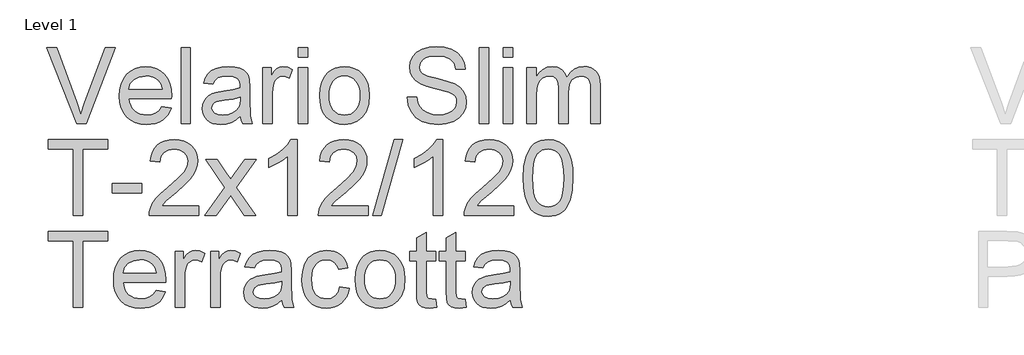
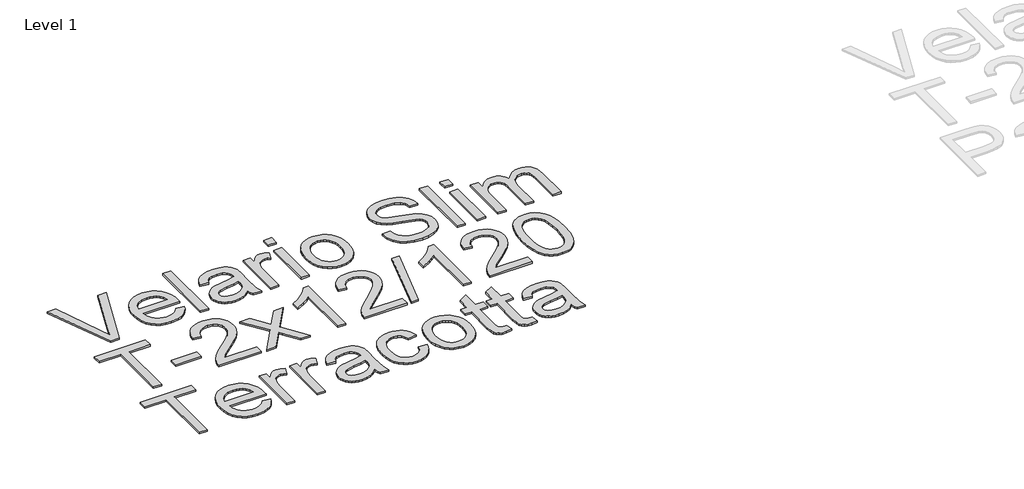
# One storey, part 3 of 13: 1 proxy.
"""IFC4 building model written with IfcOpenShell, lengths in millimetres."""

from ifc_helpers import new_model, si_unit, frame, origin, place, context, project, spatial, polyline, outline, extrude, element, save

model = new_model("IFC4")

# Units and contexts
model_context = context("Model", 3, world=origin())
ifc_project = project(units=[si_unit("LENGTHUNIT", "METRE", prefix="MILLI")], contexts=[model_context])

# Site, building, storey
site = spatial("IfcSite", under=ifc_project)
building = spatial("IfcBuilding", under=site)
storey = spatial("IfcBuildingStorey", under=building, Name="Level 1", Elevation=4000.0)

# Proxy
placement = place(None, origin())
element("IfcBuildingElementProxy", 1, Name="Elysium 400mm Arial", ObjectType="Elysium 400mm Arial", at=placement, inside=storey, context=model_context, shape_type="SweptSolid", body=[
    extrude(outline(polyline([(38701.8504181, -17959.2083157), (38541.9443775, -17557.3830752), (38595.7041998, -17557.3830752), (38702.7333349, -17846.8816799), (38724.4138471, -17912.1194204), (38745.8000538, -17846.8816799), (38853.1234945, -17557.3830752), (38906.8833168, -17557.3830752), (38753.7463049, -17959.2083157), (38701.8504181, -17959.2083157)])), frame((0.0, 0.0, 4000.0), z_axis=(0.0, 0.0, 1.0), x_axis=(1.0, 0.0, 0.0)), (0.0, 0.0, 1.0), 10.0),
    extrude(outline(polyline([(39153.9038138, -17871.3090444), (39203.1509502, -17877.5875638), (39195.6001723, -17897.3121701), (39185.4067753, -17914.6945943), (39172.5707594, -17929.7348366), (39157.0921244, -17942.4328968), (39139.130286, -17952.5189948), (39118.8446596, -17959.7233505), (39071.3020431, -17965.4868351), (39040.1363068, -17963.000566), (39012.3673475, -17955.5417585), (38987.9951653, -17943.1104128), (38967.0197602, -17925.7065287), (38950.1523708, -17903.8144843), (38938.1042354, -17877.9186575), (38930.8753542, -17848.0190484), (38928.4657271, -17814.1156569), (38930.8998797, -17779.0626341), (38938.2023373, -17748.1666779), (38950.3731, -17721.4277882), (38967.4121677, -17698.845965), (38988.3323905, -17680.9055864), (39012.1466183, -17668.0910302), (39038.8548512, -17660.4022965), (39068.457089, -17657.8393853), (39097.1058994, -17660.3961652), (39123.0139889, -17668.0665048), (39146.1813576, -17680.8504041), (39166.6080054, -17698.7478632), (39183.2822568, -17721.2806354), (39195.1924364, -17747.9704741), (39202.3385441, -17778.8173794), (39204.7205801, -17813.8213513), (39204.4262745, -17827.3594087), (38978.6938822, -17827.3594087), (38981.6032157, -17847.402846), (38987.38816, -17864.9569486), (38996.0487153, -17880.0217163), (39007.5848816, -17892.5971492), (39021.3589966, -17902.5115689), (39036.7333983, -17909.5932973), (39072.2830618, -17915.2586801), (39099.0158201, -17912.6344552), (39121.5301982, -17904.7617805), (39139.8261961, -17891.1501466), (39153.9038138, -17871.3090444)]), holes=[polyline([(38978.6938822, -17777.1312536), (39154.492425, -17777.1312536), (39147.6988708, -17750.594699), (39134.3815426, -17731.6119881), (39120.6840696, -17721.3112922), (39105.0981358, -17713.9536523), (39087.623741, -17709.5390684), (39068.2608853, -17708.0675404), (39034.403479, -17712.7641672), (39006.4076592, -17726.8540476), (38986.9467016, -17748.8166027), (38978.6938822, -17777.1312536)])]), frame((0.0, 0.0, 4000.0), z_axis=(0.0, 0.0, 1.0), x_axis=(1.0, 0.0, 0.0)), (0.0, 0.0, 1.0), 10.0),
    extrude(outline(polyline([(39254.9487351, -17959.2083157), (39254.9487351, -17557.3830752), (39305.1768902, -17557.3830752), (39305.1768902, -17959.2083157), (39254.9487351, -17959.2083157)])), frame((0.0, 0.0, 4000.0), z_axis=(0.0, 0.0, 1.0), x_axis=(1.0, 0.0, 0.0)), (0.0, 0.0, 1.0), 10.0),
    extrude(outline(polyline([(39568.8747043, -17921.5371994), (39544.8765355, -17942.1140657), (39520.1671282, -17955.5785467), (39494.1823966, -17963.009763), (39466.358255, -17965.4868351), (39443.9940954, -17963.9969131), (39424.3829194, -17959.5271468), (39407.5247269, -17952.0775364), (39393.4195181, -17941.6480818), (39382.2818907, -17928.9009707), (39374.3264426, -17914.4983906), (39369.5531737, -17898.4403415), (39367.962084, -17880.7268234), (39370.3655797, -17859.9047025), (39377.5760669, -17840.995568), (39388.6983658, -17824.8087602), (39402.8372972, -17812.1536195), (39419.4533006, -17802.5886877), (39438.0068159, -17795.6725062), (39481.4659423, -17788.1186625), (39532.8222688, -17780.1724114), (39568.5803987, -17770.8527342), (39568.8747043, -17759.6691216), (39565.4166136, -17737.2528453), (39555.0423413, -17722.5866165), (39531.8412502, -17711.6973094), (39499.5166855, -17708.0675404), (39469.5956166, -17710.4832988), (39448.6999193, -17717.7305741), (39434.4506233, -17731.1337415), (39424.4687585, -17752.0171761), (39374.2406034, -17745.7386567), (39382.9594067, -17718.2701344), (39395.9701666, -17696.687724), (39414.4868937, -17680.1820851), (39439.7235986, -17667.9438774), (39470.588898, -17660.3655083), (39505.9914086, -17657.8393853), (39539.9469168, -17660.0712027), (39566.8636161, -17666.7666551), (39587.1584395, -17676.834359), (39601.2483199, -17689.1829313), (39610.5925226, -17704.4500341), (39616.6503128, -17723.2733295), (39619.1028594, -17767.2229652), (39619.1028594, -17829.7138534), (39621.6535079, -17916.9754627), (39631.6598982, -17959.2083157), (39581.4317431, -17959.2083157), (39573.3873902, -17941.7461837), (39568.8747043, -17921.5371994)]), holes=[polyline([(39568.8747043, -17821.0808893), (39535.1276627, -17829.4440733), (39487.8425635, -17836.4828822), (39444.6286918, -17844.625337), (39433.3837655, -17850.1926178), (39425.0573697, -17857.8690888), (39419.9070218, -17867.0661387), (39418.1902391, -17877.1951563), (39421.9303727, -17892.1311653), (39433.1507736, -17904.369373), (39451.606187, -17912.5363533), (39477.0513583, -17915.2586801), (39504.0293713, -17912.2543104), (39527.8681246, -17903.2412016), (39547.1941921, -17889.9606615), (39560.6341477, -17874.1539985), (39566.593836, -17857.8690888), (39568.5803987, -17835.3056598), (39568.8747043, -17821.0808893)])]), frame((0.0, 0.0, 4000.0), z_axis=(0.0, 0.0, 1.0), x_axis=(1.0, 0.0, 0.0)), (0.0, 0.0, 1.0), 10.0),
    extrude(outline(polyline([(39688.1665726, -17959.2083157), (39688.1665726, -17664.1179047), (39732.1162083, -17664.1179047), (39732.1162083, -17707.7732348), (39748.3520671, -17682.4629535), (39763.3126015, -17667.55147), (39778.3221869, -17660.2674065), (39794.7051984, -17657.8393853), (39819.7211741, -17661.714409), (39845.1295573, -17673.33948), (39828.3541383, -17718.3682362), (39810.6958025, -17710.6427143), (39793.0374667, -17708.0675404), (39778.0401441, -17710.5446125), (39764.6369767, -17717.9758288), (39753.8089833, -17729.7971036), (39746.5371825, -17745.4443511), (39740.4303414, -17773.5014846), (39738.3947277, -17804.1092666), (39738.3947277, -17959.2083157), (39688.1665726, -17959.2083157)])), frame((0.0, 0.0, 4000.0), z_axis=(0.0, 0.0, 1.0), x_axis=(1.0, 0.0, 0.0)), (0.0, 0.0, 1.0), 10.0),
    extrude(outline(polyline([(39876.5221542, -17607.6112302), (39876.5221542, -17557.3830752), (39926.7503093, -17557.3830752), (39926.7503093, -17607.6112302), (39876.5221542, -17607.6112302)])), frame((0.0, 0.0, 4000.0), z_axis=(0.0, 0.0, 1.0), x_axis=(1.0, 0.0, 0.0)), (0.0, 0.0, 1.0), 10.0),
    extrude(outline(polyline([(39876.5221542, -17959.2083157), (39876.5221542, -17664.1179047), (39926.7503093, -17664.1179047), (39926.7503093, -17959.2083157), (39876.5221542, -17959.2083157)])), frame((0.0, 0.0, 4000.0), z_axis=(0.0, 0.0, 1.0), x_axis=(1.0, 0.0, 0.0)), (0.0, 0.0, 1.0), 10.0),
    extrude(outline(polyline([(39989.5355031, -17811.6631102), (39992.2516985, -17773.4463023), (40000.4002847, -17740.5147324), (40013.9812617, -17712.8684004), (40032.9946295, -17690.5073065), (40052.1367559, -17676.215091), (40073.2654452, -17666.0063656), (40096.3806972, -17659.8811304), (40121.482512, -17657.8393853), (40149.1932233, -17660.3256545), (40174.2490529, -17667.7844619), (40196.6500007, -17680.2158077), (40216.3960668, -17697.6196917), (40232.5123639, -17719.4075029), (40244.0240046, -17744.99063), (40250.9309891, -17774.369073), (40253.2333172, -17807.5428319), (40249.1620898, -17858.2860217), (40236.9484076, -17896.9136312), (40216.9478898, -17925.8414188), (40189.5161557, -17947.4851428), (40156.9340736, -17960.9864121), (40121.482512, -17965.4868351), (40093.3671306, -17963.009763), (40068.0783091, -17955.5785467), (40045.6160476, -17943.1931862), (40025.9803461, -17925.8536815), (40010.0357273, -17903.8543382), (39998.6467138, -17877.4894619), (39991.8133058, -17846.7590526), (39989.5355031, -17811.6631102)]), holes=[polyline([(40039.7636582, -17811.5650084), (40041.2167921, -17835.9279935), (40045.5761937, -17857.0229602), (40052.8418631, -17874.8499086), (40063.0138003, -17889.4088385), (40075.386898, -17900.7181442), (40089.2560493, -17908.7962197), (40104.6212539, -17913.643065), (40121.482512, -17915.2586801), (40138.257931, -17913.6338679), (40153.561822, -17908.7594315), (40167.394185, -17900.6353708), (40179.7550201, -17889.2616857), (40189.9269572, -17874.5586687), (40197.1926266, -17856.4466118), (40201.5520283, -17834.925515), (40203.0051622, -17809.9953785), (40201.5428312, -17786.4049456), (40197.1558384, -17765.8618018), (40189.8441838, -17748.3659473), (40179.6078673, -17733.9173819), (40167.201047, -17722.6080762), (40153.377881, -17714.5300008), (40138.1383694, -17709.6831555), (40121.482512, -17708.0675404), (40104.6212539, -17709.6770241), (40089.2560493, -17714.5054753), (40075.386898, -17722.5528939), (40063.0138003, -17733.81928), (40052.8418631, -17748.3352904), (40045.5761937, -17766.1315819), (40041.2167921, -17787.2081546), (40039.7636582, -17811.5650084)])]), frame((0.0, 0.0, 4000.0), z_axis=(0.0, 0.0, 1.0), x_axis=(1.0, 0.0, 0.0)), (0.0, 0.0, 1.0), 10.0),
    extrude(outline(polyline([(40454.1459375, -17821.0808893), (40504.3740926, -17821.0808893), (40510.1375772, -17848.9540818), (40520.5609004, -17871.3580953), (40536.8212846, -17889.1390584), (40560.0959521, -17903.1430997), (40588.5454931, -17912.229785), (40620.3304975, -17915.2586801), (40648.3140546, -17912.965549), (40672.8149955, -17906.0861556), (40692.6683605, -17895.1968486), (40706.70919, -17880.8739762), (40715.0601112, -17864.4296511), (40717.8437517, -17847.1759855), (40715.759087, -17830.3637783), (40709.5050931, -17815.8324395), (40696.8009016, -17803.4348163), (40675.365644, -17793.0237558), (40602.2307033, -17773.8448411), (40554.222103, -17761.1529123), (40523.5039564, -17749.0741201), (40498.5002434, -17732.1760738), (40480.780594, -17711.6973094), (40470.2223807, -17688.0792853), (40466.7029763, -17661.7634599), (40471.0562466, -17632.345163), (40484.1160574, -17604.9134289), (40505.5390523, -17581.6632868), (40534.9818746, -17564.789766), (40570.3230716, -17554.5258583), (40609.4411904, -17551.1045558), (40651.8211963, -17554.6852739), (40688.9037014, -17565.4274281), (40719.3643306, -17583.1102893), (40741.8787087, -17607.5131284), (40756.1280046, -17637.1153662), (40761.7933874, -17670.3964241), (40711.5652323, -17670.3964241), (40702.3436569, -17640.4263042), (40693.9804729, -17628.5682412), (40683.1156913, -17618.7948429), (40653.0719951, -17605.6982439), (40611.4032277, -17601.3327108), (40568.7534418, -17605.6491929), (40552.450138, -17611.0447955), (40539.4945604, -17618.5986391), (40522.5719886, -17637.6549265), (40516.9311314, -17660.2919319), (40520.9287824, -17679.5934739), (40532.9217354, -17695.1180941), (40561.2731745, -17708.9995081), (40614.9348949, -17723.1752276), (40670.3133979, -17736.6397087), (40703.8151849, -17748.387407), (40732.4486669, -17766.6098285), (40752.4246592, -17789.0996812), (40764.1600949, -17815.6117103), (40768.0719068, -17845.9006612), (40763.5714837, -17876.8640625), (40750.0702145, -17905.9880538), (40728.1199221, -17931.0530804), (40698.2724295, -17949.8395876), (40662.3794095, -17961.5750233), (40622.2925348, -17965.4868351), (40573.0821866, -17961.2684549), (40532.5783789, -17948.6133143), (40500.3151279, -17927.4723623), (40475.8264498, -17897.796548), (40460.1056259, -17861.6460106), (40454.1459375, -17821.0808893)])), frame((0.0, 0.0, 4000.0), z_axis=(0.0, 0.0, 1.0), x_axis=(1.0, 0.0, 0.0)), (0.0, 0.0, 1.0), 10.0),
    extrude(outline(polyline([(40837.13562, -17959.2083157), (40837.13562, -17557.3830752), (40887.3637751, -17557.3830752), (40887.3637751, -17959.2083157), (40837.13562, -17959.2083157)])), frame((0.0, 0.0, 4000.0), z_axis=(0.0, 0.0, 1.0), x_axis=(1.0, 0.0, 0.0)), (0.0, 0.0, 1.0), 10.0),
    extrude(outline(polyline([(40962.7060077, -17607.6112302), (40962.7060077, -17557.3830752), (41012.9341627, -17557.3830752), (41012.9341627, -17607.6112302), (40962.7060077, -17607.6112302)])), frame((0.0, 0.0, 4000.0), z_axis=(0.0, 0.0, 1.0), x_axis=(1.0, 0.0, 0.0)), (0.0, 0.0, 1.0), 10.0),
    extrude(outline(polyline([(40962.7060077, -17959.2083157), (40962.7060077, -17664.1179047), (41012.9341627, -17664.1179047), (41012.9341627, -17959.2083157), (40962.7060077, -17959.2083157)])), frame((0.0, 0.0, 4000.0), z_axis=(0.0, 0.0, 1.0), x_axis=(1.0, 0.0, 0.0)), (0.0, 0.0, 1.0), 10.0),
    extrude(outline(polyline([(41088.2763954, -17959.2083157), (41088.2763954, -17664.1179047), (41138.5045504, -17664.1179047), (41138.5045504, -17712.678328), (41153.6122377, -17690.3724164), (41173.036407, -17672.8980216), (41196.1148709, -17661.6040444), (41222.1854416, -17657.8393853), (41250.1199478, -17661.6776208), (41272.5116985, -17673.1923272), (41289.2380666, -17691.6232152), (41300.1764246, -17716.2099952), (41318.4846852, -17690.6728534), (41339.3681198, -17672.4320378), (41362.8267284, -17661.4875484), (41388.8605109, -17657.8393853), (41408.9683276, -17659.3568985), (41426.6174663, -17663.9094382), (41441.807927, -17671.4970044), (41454.5397098, -17682.119597), (41464.604348, -17695.8998434), (41471.7933753, -17712.9603709), (41476.1067917, -17733.3011796), (41477.5445972, -17756.9222693), (41477.5445972, -17959.2083157), (41427.3164421, -17959.2083157), (41427.3164421, -17778.5046797), (41426.1514825, -17753.4519158), (41422.6566035, -17736.5661323), (41416.108304, -17725.0023749), (41405.7830827, -17715.9156896), (41392.5025426, -17710.0295777), (41377.088287, -17708.0675404), (41349.8772821, -17713.095261), (41327.6939978, -17728.1784228), (41319.0886248, -17739.7483115), (41312.9419298, -17754.3470954), (41308.0245738, -17792.6313483), (41308.0245738, -17959.2083157), (41257.7964187, -17959.2083157), (41257.7964187, -17772.9128734), (41254.890151, -17744.5123834), (41246.1713477, -17724.2543482), (41230.8306685, -17712.1142423), (41208.058773, -17708.0675404), (41188.70818, -17710.7653417), (41170.878166, -17718.8587456), (41156.1628862, -17732.1515483), (41146.1564959, -17750.4475462), (41140.4175368, -17775.8314039), (41138.5045504, -17810.387786), (41138.5045504, -17959.2083157), (41088.2763954, -17959.2083157)])), frame((0.0, 0.0, 4000.0), z_axis=(0.0, 0.0, 1.0), x_axis=(1.0, 0.0, 0.0)), (0.0, 0.0, 1.0), 10.0),
    extrude(outline(polyline([(38683.6034712, -18447.1075871), (38683.6034712, -18095.5105016), (38551.7545641, -18095.5105016), (38551.7545641, -18045.2823465), (38865.6805333, -18045.2823465), (38865.6805333, -18095.5105016), (38733.8316262, -18095.5105016), (38733.8316262, -18447.1075871), (38683.6034712, -18447.1075871)])), frame((0.0, 0.0, 4000.0), z_axis=(0.0, 0.0, 1.0), x_axis=(1.0, 0.0, 0.0)), (0.0, 0.0, 1.0), 10.0),
    extrude(outline(polyline([(38890.7946108, -18327.8157188), (38890.7946108, -18277.5875638), (39047.7575954, -18277.5875638), (39047.7575954, -18327.8157188), (38890.7946108, -18327.8157188)])), frame((0.0, 0.0, 4000.0), z_axis=(0.0, 0.0, 1.0), x_axis=(1.0, 0.0, 0.0)), (0.0, 0.0, 1.0), 10.0),
    extrude(outline(polyline([(39349.1265259, -18396.8794321), (39349.1265259, -18447.1075871), (39085.4287117, -18447.1075871), (39086.5323577, -18429.4247259), (39090.8243143, -18412.4776287), (39103.2096748, -18385.4137765), (39121.3339945, -18359.1592648), (39147.551718, -18331.6784798), (39184.2172902, -18300.9358077), (39238.4185708, -18252.7923173), (39270.9393392, -18217.2549165), (39287.1997234, -18188.4129681), (39292.6198514, -18160.3558346), (39287.5062917, -18135.2049689), (39272.1656125, -18114.2970088), (39248.5843766, -18100.2071284), (39218.7491468, -18095.5105016), (39187.4178635, -18100.0967638), (39163.0763382, -18113.8555504), (39147.367777, -18135.7077409), (39141.9353862, -18164.5742148), (39091.7072311, -18158.2956955), (39096.0267789, -18132.3661462), (39103.8841252, -18109.7107466), (39115.27927, -18090.3294968), (39130.2122133, -18074.2223968), (39148.3395986, -18061.5611248), (39169.3180694, -18052.5173591), (39193.1476256, -18047.0910997), (39219.8282673, -18045.2823465), (39246.7480323, -18047.2934348), (39270.7063473, -18053.3266995), (39291.7032121, -18063.3821407), (39309.7386269, -18077.4597584), (39324.2239805, -18094.5172202), (39334.5706616, -18113.5121939), (39340.7786703, -18134.4446794), (39342.8480065, -18157.3146768), (39340.6161891, -18181.3373711), (39333.9207368, -18204.9431324), (39322.0381483, -18228.953564), (39304.2449225, -18254.1902689), (39275.8812207, -18284.3198043), (39232.2872042, -18323.0087274), (39174.5052055, -18371.3238961), (39151.8436746, -18396.8794321), (39349.1265259, -18396.8794321)])), frame((0.0, 0.0, 4000.0), z_axis=(0.0, 0.0, 1.0), x_axis=(1.0, 0.0, 0.0)), (0.0, 0.0, 1.0), 10.0),
    extrude(outline(polyline([(39380.5191228, -18447.1075871), (39487.8425635, -18298.7775667), (39386.7976422, -18152.0171761), (39447.2283913, -18152.0171761), (39495.9850184, -18222.6505191), (39518.7446511, -18256.0051534), (39538.4631261, -18228.7328348), (39593.9887819, -18152.0171761), (39654.419531, -18152.0171761), (39548.2733126, -18298.7775667), (39650.4954563, -18447.1075871), (39590.0647073, -18447.1075871), (39528.5548377, -18357.9329915), (39517.2731232, -18341.6480818), (39440.9498719, -18447.1075871), (39380.5191228, -18447.1075871)])), frame((0.0, 0.0, 4000.0), z_axis=(0.0, 0.0, 1.0), x_axis=(1.0, 0.0, 0.0)), (0.0, 0.0, 1.0), 10.0),
    extrude(outline(polyline([(39870.2436348, -18447.1075871), (39820.0154797, -18447.1075871), (39820.0154797, -18133.9664328), (39799.046206, -18150.9257928), (39772.436075, -18167.8606273), (39719.5591696, -18193.2199595), (39719.5591696, -18145.7386567), (39759.0083822, -18124.2788736), (39793.1846195, -18098.7478632), (39820.1258443, -18071.5981719), (39837.8700192, -18045.2823465), (39870.2436348, -18045.2823465), (39870.2436348, -18447.1075871)])), frame((0.0, 0.0, 4000.0), z_axis=(0.0, 0.0, 1.0), x_axis=(1.0, 0.0, 0.0)), (0.0, 0.0, 1.0), 10.0),
    extrude(outline(polyline([(40246.9547979, -18396.8794321), (40246.9547979, -18447.1075871), (39983.2569837, -18447.1075871), (39984.3606297, -18429.4247259), (39988.6525863, -18412.4776287), (40001.0379468, -18385.4137765), (40019.1622664, -18359.1592648), (40045.37999, -18331.6784798), (40082.0455621, -18300.9358077), (40136.2468428, -18252.7923173), (40168.7676111, -18217.2549165), (40185.0279953, -18188.4129681), (40190.4481234, -18160.3558346), (40185.3345637, -18135.2049689), (40169.9938845, -18114.2970088), (40146.4126486, -18100.2071284), (40116.5774188, -18095.5105016), (40085.2461355, -18100.0967638), (40060.9046102, -18113.8555504), (40045.196049, -18135.7077409), (40039.7636582, -18164.5742148), (39989.5355031, -18158.2956955), (39993.8550509, -18132.3661462), (40001.7123971, -18109.7107466), (40013.1075419, -18090.3294968), (40028.0404853, -18074.2223968), (40046.1678706, -18061.5611248), (40067.1463413, -18052.5173591), (40090.9758976, -18047.0910997), (40117.6565393, -18045.2823465), (40144.5763043, -18047.2934348), (40168.5346192, -18053.3266995), (40189.5314841, -18063.3821407), (40207.5668989, -18077.4597584), (40222.0522525, -18094.5172202), (40232.3989336, -18113.5121939), (40238.6069422, -18134.4446794), (40240.6762785, -18157.3146768), (40238.444461, -18181.3373711), (40231.7490087, -18204.9431324), (40219.8664203, -18228.953564), (40202.0731944, -18254.1902689), (40173.7094926, -18284.3198043), (40130.1154762, -18323.0087274), (40072.3334775, -18371.3238961), (40049.6719466, -18396.8794321), (40246.9547979, -18396.8794321)])), frame((0.0, 0.0, 4000.0), z_axis=(0.0, 0.0, 1.0), x_axis=(1.0, 0.0, 0.0)), (0.0, 0.0, 1.0), 10.0),
    extrude(outline(polyline([(40272.0688754, -18447.1075871), (40385.0822243, -18045.2823465), (40430.4052861, -18045.2823465), (40317.3919372, -18447.1075871), (40272.0688754, -18447.1075871)])), frame((0.0, 0.0, 4000.0), z_axis=(0.0, 0.0, 1.0), x_axis=(1.0, 0.0, 0.0)), (0.0, 0.0, 1.0), 10.0),
    extrude(outline(polyline([(40642.5015191, -18447.1075871), (40592.273364, -18447.1075871), (40592.273364, -18133.9664328), (40571.3040903, -18150.9257928), (40544.6939593, -18167.8606273), (40491.8170538, -18193.2199595), (40491.8170538, -18145.7386567), (40531.2662665, -18124.2788736), (40565.4425038, -18098.7478632), (40592.3837286, -18071.5981719), (40610.1279035, -18045.2823465), (40642.5015191, -18045.2823465), (40642.5015191, -18447.1075871)])), frame((0.0, 0.0, 4000.0), z_axis=(0.0, 0.0, 1.0), x_axis=(1.0, 0.0, 0.0)), (0.0, 0.0, 1.0), 10.0),
    extrude(outline(polyline([(41019.2126821, -18396.8794321), (41019.2126821, -18447.1075871), (40755.514868, -18447.1075871), (40756.618514, -18429.4247259), (40760.9104706, -18412.4776287), (40773.2958311, -18385.4137765), (40791.4201507, -18359.1592648), (40817.6378742, -18331.6784798), (40854.3034464, -18300.9358077), (40908.504727, -18252.7923173), (40941.0254954, -18217.2549165), (40957.2858796, -18188.4129681), (40962.7060077, -18160.3558346), (40957.5924479, -18135.2049689), (40942.2517687, -18114.2970088), (40918.6705328, -18100.2071284), (40888.835303, -18095.5105016), (40857.5040198, -18100.0967638), (40833.1624944, -18113.8555504), (40817.4539332, -18135.7077409), (40812.0215424, -18164.5742148), (40761.7933874, -18158.2956955), (40766.1129351, -18132.3661462), (40773.9702814, -18109.7107466), (40785.3654262, -18090.3294968), (40800.2983695, -18074.2223968), (40818.4257548, -18061.5611248), (40839.4042256, -18052.5173591), (40863.2337819, -18047.0910997), (40889.9144236, -18045.2823465), (40916.8341886, -18047.2934348), (40940.7925035, -18053.3266995), (40961.7893684, -18063.3821407), (40979.8247832, -18077.4597584), (40994.3101367, -18094.5172202), (41004.6568179, -18113.5121939), (41010.8648265, -18134.4446794), (41012.9341627, -18157.3146768), (41010.7023453, -18181.3373711), (41004.006893, -18204.9431324), (40992.1243046, -18228.953564), (40974.3310787, -18254.1902689), (40945.9673769, -18284.3198043), (40902.3733605, -18323.0087274), (40844.5913618, -18371.3238961), (40821.9298308, -18396.8794321), (41019.2126821, -18396.8794321)])), frame((0.0, 0.0, 4000.0), z_axis=(0.0, 0.0, 1.0), x_axis=(1.0, 0.0, 0.0)), (0.0, 0.0, 1.0), 10.0),
    extrude(outline(polyline([(41069.4408372, -18249.4323284), (41073.1319199, -18185.1142929), (41084.2051679, -18133.81928), (41102.5502168, -18094.7624749), (41114.4082797, -18079.5290946), (41128.0567018, -18067.1590625), (41143.5414681, -18057.5879993), (41160.9085639, -18050.7515255), (41201.2897443, -18045.2823465), (41232.2408828, -18048.5197081), (41259.9546598, -18058.2317928), (41283.1312255, -18074.0384558), (41300.4707302, -18095.5595525), (41313.5673292, -18122.6111419), (41324.0151779, -18155.009283), (41330.857783, -18196.1507528), (41333.1386513, -18249.4323284), (41329.4843569, -18313.3824819), (41318.5214734, -18364.5548674), (41300.2867892, -18403.6484608), (41288.4563173, -18418.9278263), (41274.8170924, -18431.3622377), (41259.313932, -18440.9976803), (41241.8916538, -18447.8801393), (41201.2897443, -18453.3861065), (41173.6250182, -18450.9948735), (41149.0995519, -18443.8211746), (41127.7133452, -18431.8650098), (41109.4663983, -18415.126379), (41091.9552153, -18384.8680849), (41079.4472275, -18347.1663118), (41071.9424348, -18302.0210596), (41069.4408372, -18249.4323284)]), holes=[polyline([(41119.6689923, -18249.3342265), (41121.1405203, -18292.9987537), (41125.5551042, -18328.3430164), (41132.9127441, -18355.3670146), (41143.21344, -18374.0707484), (41155.6723769, -18386.7963997), (41169.5047399, -18395.8861507), (41184.710529, -18401.3400012), (41201.2897443, -18403.1579514), (41217.8689595, -18401.3338699), (41233.0747487, -18395.8616252), (41246.9071117, -18386.7412174), (41259.3660486, -18373.9726465), (41269.6667444, -18355.2382559), (41277.0243843, -18328.220389), (41281.4389683, -18292.9190459), (41282.9104963, -18249.3342265), (41281.4880192, -18206.825462), (41277.2205881, -18172.103533), (41270.1082028, -18145.1684396), (41260.1508635, -18126.0201817), (41247.9003931, -18112.6721967), (41233.9086145, -18103.1379216), (41218.1755279, -18097.4173566), (41200.7011331, -18095.5105016), (41184.207757, -18097.1904961), (41169.2594852, -18102.2304794), (41155.8563179, -18110.6304516), (41143.9982549, -18122.3904127), (41133.3542025, -18143.2370591), (41125.7513079, -18171.3432435), (41121.1895712, -18206.708966), (41119.6689923, -18249.3342265)])]), frame((0.0, 0.0, 4000.0), z_axis=(0.0, 0.0, 1.0), x_axis=(1.0, 0.0, 0.0)), (0.0, 0.0, 1.0), 10.0),
    extrude(outline(polyline([(38683.6034712, -18935.0068585), (38683.6034712, -18583.409773), (38551.7545641, -18583.409773), (38551.7545641, -18533.1816179), (38865.6805333, -18533.1816179), (38865.6805333, -18583.409773), (38733.8316262, -18583.409773), (38733.8316262, -18935.0068585), (38683.6034712, -18935.0068585)])), frame((0.0, 0.0, 4000.0), z_axis=(0.0, 0.0, 1.0), x_axis=(1.0, 0.0, 0.0)), (0.0, 0.0, 1.0), 10.0),
    extrude(outline(polyline([(39122.5112169, -18847.1075871), (39171.7583533, -18853.3861065), (39164.2075753, -18873.1107128), (39154.0141784, -18890.4931371), (39141.1781624, -18905.5333793), (39125.6995275, -18918.2314395), (39107.7376891, -18928.3175376), (39087.4520627, -18935.5218933), (39039.9094462, -18941.2853779), (39008.7437099, -18938.7991087), (38980.9747506, -18931.3403013), (38956.6025684, -18918.9089555), (38935.6271633, -18901.5050715), (38918.7597738, -18879.6130271), (38906.7116385, -18853.7172003), (38899.4827573, -18823.8175912), (38897.0731302, -18789.9141996), (38899.5072828, -18754.8611768), (38906.8097404, -18723.9652206), (38918.980503, -18697.2263309), (38936.0195708, -18674.6445078), (38956.9397936, -18656.7041292), (38980.7540214, -18643.889573), (39007.4622542, -18636.2008393), (39037.0644921, -18633.6379281), (39065.7133025, -18636.1947079), (39091.621392, -18643.8650475), (39114.7887606, -18656.6489469), (39135.2154084, -18674.5464059), (39151.8896599, -18697.0791781), (39163.7998395, -18723.7690169), (39170.9459472, -18754.6159222), (39173.3279831, -18789.619894), (39173.0336775, -18803.1579514), (38947.3012853, -18803.1579514), (38950.2106187, -18823.2013888), (38955.9955631, -18840.7554913), (38964.6561184, -18855.820259), (38976.1922846, -18868.3956919), (38989.9663997, -18878.3101117), (39005.3408014, -18885.3918401), (39040.8904649, -18891.0572228), (39067.6232232, -18888.4329979), (39090.1376013, -18880.5603232), (39108.4335992, -18866.9486894), (39122.5112169, -18847.1075871)]), holes=[polyline([(38947.3012853, -18752.9297964), (39123.0998281, -18752.9297964), (39116.3062739, -18726.3932418), (39102.9889457, -18707.4105308), (39089.2914727, -18697.109835), (39073.7055388, -18689.7521951), (39056.2311441, -18685.3376111), (39036.8682884, -18683.8660831), (39003.0108821, -18688.5627099), (38975.0150623, -18702.6525904), (38955.5541047, -18724.6151455), (38947.3012853, -18752.9297964)])]), frame((0.0, 0.0, 4000.0), z_axis=(0.0, 0.0, 1.0), x_axis=(1.0, 0.0, 0.0)), (0.0, 0.0, 1.0), 10.0),
    extrude(outline(polyline([(39223.5561382, -18935.0068585), (39223.5561382, -18639.9164474), (39267.5057739, -18639.9164474), (39267.5057739, -18683.5717775), (39283.7416326, -18658.2614963), (39298.7021671, -18643.3500127), (39313.7117525, -18636.0659492), (39330.094764, -18633.6379281), (39355.1107397, -18637.5129517), (39380.5191228, -18649.1380228), (39363.7437038, -18694.166779), (39346.0853681, -18686.4412571), (39328.4270323, -18683.8660831), (39313.4297096, -18686.3431552), (39300.0265423, -18693.7743715), (39289.1985489, -18705.5956463), (39281.9267481, -18721.2428938), (39275.819907, -18749.3000273), (39273.7842933, -18779.9078093), (39273.7842933, -18935.0068585), (39223.5561382, -18935.0068585)])), frame((0.0, 0.0, 4000.0), z_axis=(0.0, 0.0, 1.0), x_axis=(1.0, 0.0, 0.0)), (0.0, 0.0, 1.0), 10.0),
    extrude(outline(polyline([(39411.9117197, -18935.0068585), (39411.9117197, -18639.9164474), (39455.8613554, -18639.9164474), (39455.8613554, -18683.5717775), (39472.0972141, -18658.2614963), (39487.0577486, -18643.3500127), (39502.067334, -18636.0659492), (39518.4503455, -18633.6379281), (39543.4663212, -18637.5129517), (39568.8747043, -18649.1380228), (39552.0992854, -18694.166779), (39534.4409496, -18686.4412571), (39516.7826138, -18683.8660831), (39501.7852912, -18686.3431552), (39488.3821238, -18693.7743715), (39477.5541304, -18705.5956463), (39470.2823296, -18721.2428938), (39464.1754885, -18749.3000273), (39462.1398748, -18779.9078093), (39462.1398748, -18935.0068585), (39411.9117197, -18935.0068585)])), frame((0.0, 0.0, 4000.0), z_axis=(0.0, 0.0, 1.0), x_axis=(1.0, 0.0, 0.0)), (0.0, 0.0, 1.0), 10.0),
    extrude(outline(polyline([(39788.6228828, -18897.3357422), (39764.624714, -18917.9126085), (39739.9153066, -18931.3770895), (39713.930575, -18938.8083058), (39686.1064335, -18941.2853779), (39663.7422738, -18939.7954558), (39644.1310978, -18935.3256896), (39627.2729054, -18927.8760792), (39613.1676966, -18917.4466246), (39602.0300692, -18904.6995135), (39594.074621, -18890.2969334), (39589.3013521, -18874.2388843), (39587.7102625, -18856.5253662), (39590.1137582, -18835.7032453), (39597.3242453, -18816.7941107), (39608.4465443, -18800.6073029), (39622.5854756, -18787.9521623), (39639.2014791, -18778.3872304), (39657.7549944, -18771.4710489), (39701.2141207, -18763.9172053), (39752.5704473, -18755.9709542), (39788.3285772, -18746.651277), (39788.6228828, -18735.4676643), (39785.164792, -18713.0513881), (39774.7905198, -18698.3851592), (39751.5894286, -18687.4958522), (39719.264864, -18683.8660831), (39689.343795, -18686.2818416), (39668.4480977, -18693.5291169), (39654.1988018, -18706.9322842), (39644.216937, -18727.8157188), (39593.9887819, -18721.5371994), (39602.7075852, -18694.0686771), (39615.7183451, -18672.4862668), (39634.2350722, -18655.9806279), (39659.471777, -18643.7424202), (39690.3370764, -18636.1640511), (39725.7395871, -18633.6379281), (39759.6950952, -18635.8697455), (39786.6117946, -18642.5651978), (39806.906618, -18652.6329017), (39820.9964984, -18664.9814741), (39830.340701, -18680.2485769), (39836.3984912, -18699.0718723), (39838.8510379, -18743.021508), (39838.8510379, -18805.5123962), (39841.4016864, -18892.7740055), (39851.4080766, -18935.0068585), (39801.1799216, -18935.0068585), (39793.1355686, -18917.5447265), (39788.6228828, -18897.3357422)]), holes=[polyline([(39788.6228828, -18796.8794321), (39754.8758411, -18805.2426161), (39707.590742, -18812.2814249), (39664.3768703, -18820.4238797), (39653.131944, -18825.9911606), (39644.8055481, -18833.6676316), (39639.6552002, -18842.8646815), (39637.9384176, -18852.9936991), (39641.6785512, -18867.9297081), (39652.898952, -18880.1679158), (39671.3543655, -18888.3348961), (39696.7995368, -18891.0572228), (39723.7775498, -18888.0528532), (39747.6163031, -18879.0397443), (39766.9423705, -18865.7592043), (39780.3823261, -18849.9525412), (39786.3420144, -18833.6676316), (39788.3285772, -18811.1042025), (39788.6228828, -18796.8794321)])]), frame((0.0, 0.0, 4000.0), z_axis=(0.0, 0.0, 1.0), x_axis=(1.0, 0.0, 0.0)), (0.0, 0.0, 1.0), 10.0),
    extrude(outline(polyline([(40096.2703326, -18828.272029), (40146.4984877, -18834.5505484), (40141.0354401, -18858.2513459), (40132.4944464, -18879.2236853), (40120.8755067, -18897.4675666), (40106.178621, -18912.9829897), (40089.0230573, -18925.3652846), (40070.0280836, -18934.2097809), (40049.1937, -18939.5164786), (40026.5199063, -18941.2853779), (39998.3493426, -18938.8175028), (39973.0911779, -18931.4138777), (39950.7454124, -18919.0745024), (39931.312046, -18901.7993771), (39915.582025, -18879.9134641), (39904.3462957, -18853.7417258), (39897.6048582, -18823.2841623), (39895.3577123, -18788.5407735), (39899.1959478, -18743.8431111), (39910.7106543, -18705.105137), (39930.0857727, -18673.8229047), (39957.505244, -18651.4924676), (39990.3080553, -18638.1015629), (40025.8331933, -18633.6379281), (40048.1176451, -18635.1707697), (40068.2745128, -18639.7692946), (40086.3037962, -18647.4335029), (40102.2054955, -18658.1633944), (40115.7098304, -18671.7137146), (40126.5470208, -18687.8392087), (40134.7170668, -18706.5398768), (40140.2199683, -18727.8157188), (40089.9918132, -18734.0942382), (40080.8806025, -18712.180734), (40066.6926202, -18696.4721728), (40048.2126813, -18687.0176056), (40026.2256007, -18683.8660831), (40009.1589419, -18685.4173189), (39993.766146, -18690.0710261), (39980.0472133, -18697.8272049), (39968.0021436, -18708.6858551), (39958.1950228, -18722.8983628), (39951.1899365, -18740.7161141), (39946.9868847, -18762.139109), (39945.5858674, -18787.1673474), (39951.0673091, -18834.24398), (39957.9191113, -18852.181293), (39967.5116343, -18866.3846037), (39979.3175807, -18877.1788746), (39992.8096529, -18884.889068), (40007.9878508, -18889.5151841), (40024.8521746, -18891.0572228), (40050.8614317, -18887.2067246), (40072.1863247, -18875.65523), (40087.6986821, -18856.1084333), (40096.2703326, -18828.272029)])), frame((0.0, 0.0, 4000.0), z_axis=(0.0, 0.0, 1.0), x_axis=(1.0, 0.0, 0.0)), (0.0, 0.0, 1.0), 10.0),
    extrude(outline(polyline([(40177.8910846, -18787.461653), (40180.60728, -18749.244845), (40188.7558662, -18716.3132751), (40202.3368432, -18688.6669432), (40221.350211, -18666.3058492), (40240.4923375, -18652.0136337), (40261.6210267, -18641.8049084), (40284.7362788, -18635.6796731), (40309.8380936, -18633.6379281), (40337.5488048, -18636.1241972), (40362.6046344, -18643.5830047), (40385.0055822, -18656.0143504), (40404.7516483, -18673.4182345), (40420.8679454, -18695.2060456), (40432.3795862, -18720.7891727), (40439.2865706, -18750.1676157), (40441.5888988, -18783.3413746), (40437.5176714, -18834.0845645), (40425.3039891, -18872.712174), (40405.3034713, -18901.6399615), (40377.8717372, -18923.2836856), (40345.2896552, -18936.7849548), (40309.8380936, -18941.2853779), (40281.7227121, -18938.8083058), (40256.4338906, -18931.3770895), (40233.9716291, -18918.991729), (40214.3359276, -18901.6522243), (40198.3913088, -18879.652881), (40187.0022954, -18853.2880046), (40180.1688873, -18822.5575953), (40177.8910846, -18787.461653)]), holes=[polyline([(40228.1192397, -18787.3635511), (40229.5723736, -18811.7265362), (40233.9317752, -18832.821503), (40241.1974446, -18850.6484513), (40251.3693818, -18865.2073813), (40263.7424796, -18876.516687), (40277.6116308, -18884.5947624), (40292.9768355, -18889.4416077), (40309.8380936, -18891.0572228), (40326.6135125, -18889.4324107), (40341.9174035, -18884.5579742), (40355.7497666, -18876.4339135), (40368.1106016, -18865.0602285), (40378.2825388, -18850.3572114), (40385.5482082, -18832.2451545), (40389.9076098, -18810.7240578), (40391.3607437, -18785.7939213), (40389.8984128, -18762.2034883), (40385.51142, -18741.6603446), (40378.1997653, -18724.16449), (40367.9634488, -18709.7159247), (40355.5566285, -18698.406619), (40341.7334625, -18690.3285435), (40326.4939509, -18685.4816982), (40309.8380936, -18683.8660831), (40292.9768355, -18685.4755669), (40277.6116308, -18690.3040181), (40263.7424796, -18698.3514367), (40251.3693818, -18709.6178228), (40241.1974446, -18724.1338332), (40233.9317752, -18741.9301247), (40229.5723736, -18763.0066974), (40228.1192397, -18787.3635511)])]), frame((0.0, 0.0, 4000.0), z_axis=(0.0, 0.0, 1.0), x_axis=(1.0, 0.0, 0.0)), (0.0, 0.0, 1.0), 10.0),
    extrude(outline(polyline([(40604.8304028, -18893.117362), (40611.1089221, -18936.4783865), (40573.5359077, -18941.2853779), (40549.4273743, -18939.2007133), (40531.4502075, -18932.9467193), (40518.7460159, -18923.3082111), (40510.4564083, -18911.0700034), (40505.8946715, -18890.0516787), (40504.3740926, -18854.0728196), (40504.3740926, -18690.1446025), (40466.7029763, -18690.1446025), (40466.7029763, -18639.9164474), (40504.3740926, -18639.9164474), (40504.3740926, -18568.2039839), (40554.6022477, -18538.6753224), (40554.6022477, -18639.9164474), (40604.8304028, -18639.9164474), (40604.8304028, -18690.1446025), (40554.6022477, -18690.1446025), (40554.6022477, -18852.6012916), (40557.2509981, -18878.5001841), (40565.8349113, -18887.6727085), (40582.9536868, -18891.0572228), (40604.8304028, -18893.117362)])), frame((0.0, 0.0, 4000.0), z_axis=(0.0, 0.0, 1.0), x_axis=(1.0, 0.0, 0.0)), (0.0, 0.0, 1.0), 10.0),
    extrude(outline(polyline([(40761.7933874, -18893.117362), (40768.0719068, -18936.4783865), (40730.4988923, -18941.2853779), (40706.3903589, -18939.2007133), (40688.4131921, -18932.9467193), (40675.7090005, -18923.3082111), (40667.4193929, -18911.0700034), (40662.8576561, -18890.0516787), (40661.3370772, -18854.0728196), (40661.3370772, -18690.1446025), (40623.6659609, -18690.1446025), (40623.6659609, -18639.9164474), (40661.3370772, -18639.9164474), (40661.3370772, -18568.2039839), (40711.5652323, -18538.6753224), (40711.5652323, -18639.9164474), (40761.7933874, -18639.9164474), (40761.7933874, -18690.1446025), (40711.5652323, -18690.1446025), (40711.5652323, -18852.6012916), (40714.2139827, -18878.5001841), (40722.7978959, -18887.6727085), (40739.9166714, -18891.0572228), (40761.7933874, -18893.117362)])), frame((0.0, 0.0, 4000.0), z_axis=(0.0, 0.0, 1.0), x_axis=(1.0, 0.0, 0.0)), (0.0, 0.0, 1.0), 10.0),
    extrude(outline(polyline([(41000.377124, -18897.3357422), (40976.3789552, -18917.9126085), (40951.6695478, -18931.3770895), (40925.6848162, -18938.8083058), (40897.8606747, -18941.2853779), (40875.496515, -18939.7954558), (40855.885339, -18935.3256896), (40839.0271466, -18927.8760792), (40824.9219377, -18917.4466246), (40813.7843103, -18904.6995135), (40805.8288622, -18890.2969334), (40801.0555933, -18874.2388843), (40799.4645037, -18856.5253662), (40801.8679994, -18835.7032453), (40809.0784865, -18816.7941107), (40820.2007855, -18800.6073029), (40834.3397168, -18787.9521623), (40850.9557203, -18778.3872304), (40869.5092356, -18771.4710489), (40912.9683619, -18763.9172053), (40964.3246884, -18755.9709542), (41000.0828184, -18746.651277), (41000.377124, -18735.4676643), (40996.9190332, -18713.0513881), (40986.544761, -18698.3851592), (40963.3436698, -18687.4958522), (40931.0191052, -18683.8660831), (40901.0980362, -18686.2818416), (40880.2023389, -18693.5291169), (40865.9530429, -18706.9322842), (40855.9711781, -18727.8157188), (40805.7430231, -18721.5371994), (40814.4618263, -18694.0686771), (40827.4725862, -18672.4862668), (40845.9893133, -18655.9806279), (40871.2260182, -18643.7424202), (40902.0913176, -18636.1640511), (40937.4938283, -18633.6379281), (40971.4493364, -18635.8697455), (40998.3660357, -18642.5651978), (41018.6608591, -18652.6329017), (41032.7507396, -18664.9814741), (41042.0949422, -18680.2485769), (41048.1527324, -18699.0718723), (41050.6052791, -18743.021508), (41050.6052791, -18805.5123962), (41053.1559276, -18892.7740055), (41063.1623178, -18935.0068585), (41012.9341627, -18935.0068585), (41004.8898098, -18917.5447265), (41000.377124, -18897.3357422)]), holes=[polyline([(41000.377124, -18796.8794321), (40966.6300823, -18805.2426161), (40919.3449832, -18812.2814249), (40876.1311115, -18820.4238797), (40864.8861852, -18825.9911606), (40856.5597893, -18833.6676316), (40851.4094414, -18842.8646815), (40849.6926588, -18852.9936991), (40853.4327924, -18867.9297081), (40864.6531932, -18880.1679158), (40883.1086066, -18888.3348961), (40908.553778, -18891.0572228), (40935.531791, -18888.0528532), (40959.3705442, -18879.0397443), (40978.6966117, -18865.7592043), (40992.1365673, -18849.9525412), (40998.0962556, -18833.6676316), (41000.0828184, -18811.1042025), (41000.377124, -18796.8794321)])]), frame((0.0, 0.0, 4000.0), z_axis=(0.0, 0.0, 1.0), x_axis=(1.0, 0.0, 0.0)), (0.0, 0.0, 1.0), 10.0),
])

save(model, "model.ifc")
